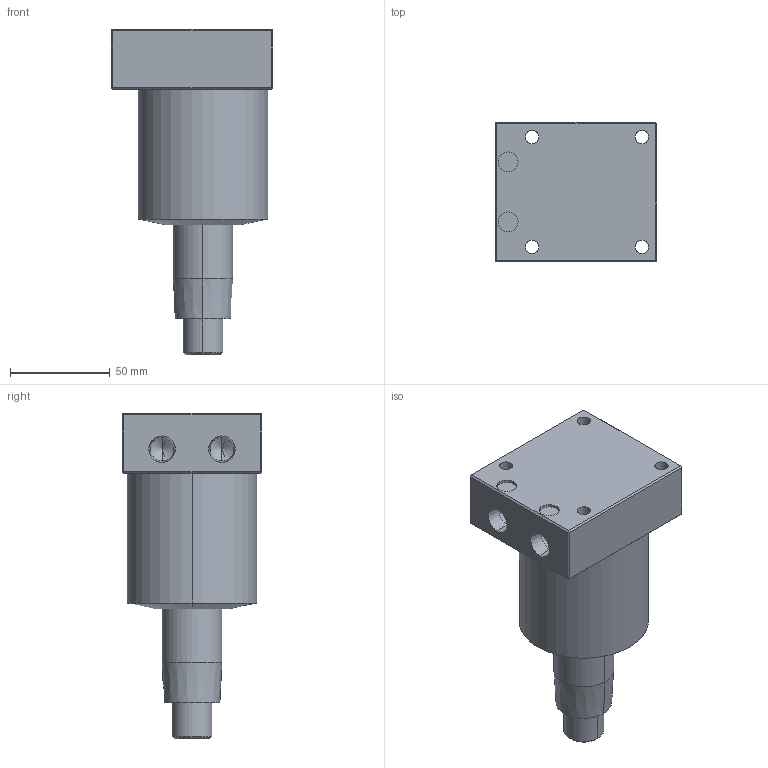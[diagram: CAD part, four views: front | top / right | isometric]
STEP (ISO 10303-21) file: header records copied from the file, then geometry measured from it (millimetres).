
FILE_DESCRIPTION (( 'STEP AP214' ), '1' );
FILE_NAME ('SB03-651-RH-BM-TAPER..STEP', '2021-08-23T05:12:52', ( '' ), ( '' ), 'SwSTEP 2.0', 'SolidWorks 2019', '' );
FILE_SCHEMA (( 'AUTOMOTIVE_DESIGN' ));
Length unit declared in the file: millimetre
Products named in the file (3): 65-bm-body; 65-taper-piston; SB03-651-RH-BM-TAPER.
Assembly tree (2 placements, depth 2):
  SB03-651-RH-BM-TAPER.
    65-bm-body
    65-taper-piston
Bounding box: 81 x 70 x 163 mm (x, y, z)
Volume: 386823.4 mm3; surface area: 55242.2 mm2
Topology: 2 solids, 2 shells, 70 faces, 160 edges, 97 vertices
Faces by surface type: plane 32, cylinder 24, cone 14
Entity records: 2060 total; most frequent: DIRECTION 364, CARTESIAN_POINT 334, ORIENTED_EDGE 312, EDGE_CURVE 156, AXIS2_PLACEMENT_3D 135, VERTEX_POINT 97, LINE 94, VECTOR 94
